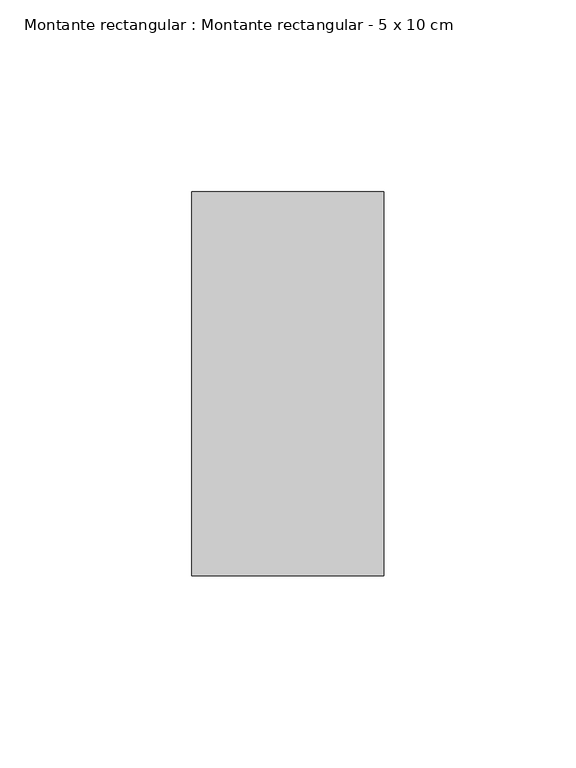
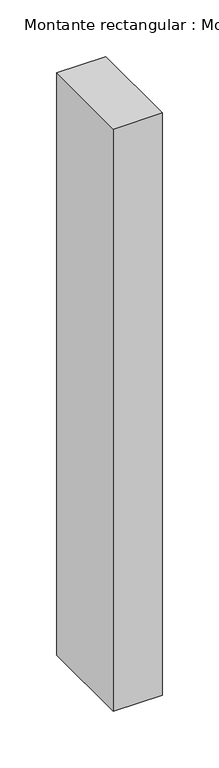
"""IFC4 building model written with IfcOpenShell, lengths in millimetres: member geometry, Montante rectangular : Montante rectangular - 5 x 10 cm."""

from ifc_helpers import new_model, si_unit, frame, origin, place, context, project, spatial, polyline, outline, extrude, source, transform, mapped, element, save


def montante_rectangular_montante_rectangular_5_x_10_cm_013db521(model_context):
    return source(origin(), model_context, "Body", "SweptSolid", [
        extrude(outline(polyline([(0.0, -50.0), (-50.0, -50.0), (-50.0, 50.0), (0.0, 50.0), (0.0, -50.0)])), frame((0.0, 0.0, -628.2098765), z_axis=(0.0, 0.0, 1.0), x_axis=(1.0, 0.0, 0.0)), (0.0, 0.0, 1.0), 628.2098765),
    ])


if __name__ == "__main__":
    model = new_model("IFC4")
    model_context = context("Model", 3, world=origin())
    ifc_project = project(units=[si_unit("LENGTHUNIT", "METRE", prefix="MILLI")], contexts=[model_context])
    site = spatial("IfcSite", under=ifc_project)
    building = spatial("IfcBuilding", under=site)
    placement = place(None, origin())
    montante_rectangular_montante_rectangular_5_x_10_cm_shape = montante_rectangular_montante_rectangular_5_x_10_cm_013db521(model_context)
    element("IfcMember", 1, ObjectType="Montante rectangular : Montante rectangular - 5 x 10 cm", at=placement, inside=building, context=model_context, shape_type="MappedRepresentation", body=[
        mapped(montante_rectangular_montante_rectangular_5_x_10_cm_shape, transform((0.0, 0.0, 0.0), x_axis=(1.0, 0.0, 0.0), y_axis=(0.0, 1.0, 0.0), z_axis=(0.0, 0.0, 1.0))),
    ])
    save(model, "model.ifc")
